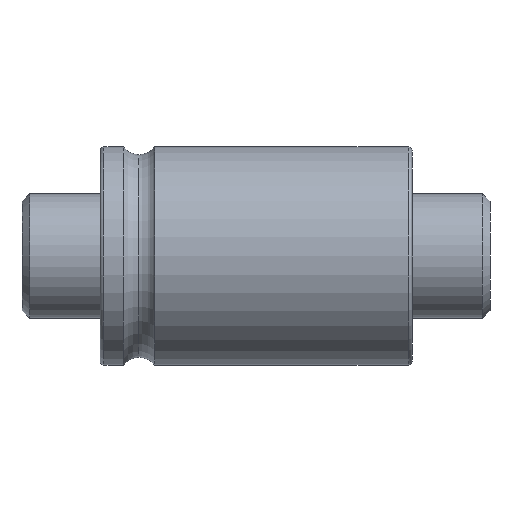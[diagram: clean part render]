
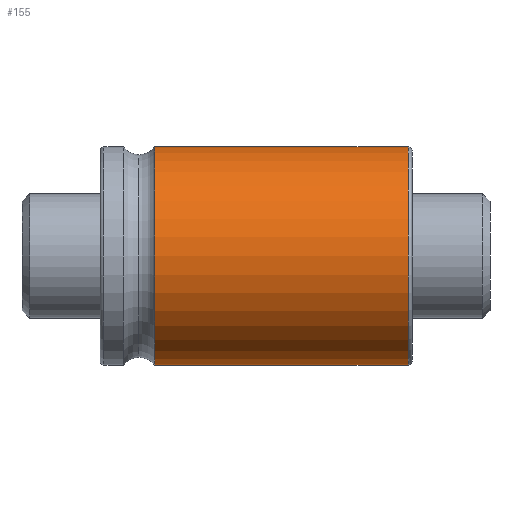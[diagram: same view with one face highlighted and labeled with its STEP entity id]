
A CAD part, front view. The second image highlights one B-rep face of the part: STEP entity #155.
In plain terms, the highlighted cylindrical face has radius 14 mm (diameter 28 mm), a partial arc.
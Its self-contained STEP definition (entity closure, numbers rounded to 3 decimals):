
#155 = ADVANCED_FACE ( 'NONE', ( #2436 ), #2850, .T. ) ;
#201 = DIRECTION ( 'NONE',  ( -1., 0., 0. ) ) ;
#292 = CARTESIAN_POINT ( 'NONE',  ( 39.5, 0., -14. ) ) ;
#332 = LINE ( 'NONE', #2679, #1179 ) ;
#333 = ORIENTED_EDGE ( 'NONE', *, *, #887, .T. ) ;
#375 = CIRCLE ( 'NONE', #797, 14. ) ;
#477 = DIRECTION ( 'NONE',  ( -1., 0., 0. ) ) ;
#564 = EDGE_LOOP ( 'NONE', ( #2351, #333, #2797, #2002 ) ) ;
#577 = VERTEX_POINT ( 'NONE', #1498 ) ;
#713 = DIRECTION ( 'NONE',  ( 0., 0., 1. ) ) ;
#797 = AXIS2_PLACEMENT_3D ( 'NONE', #2323, #2342, #857 ) ;
#857 = DIRECTION ( 'NONE',  ( 0., 0., -1. ) ) ;
#887 = EDGE_CURVE ( 'NONE', #2295, #2841, #375, .T. ) ;
#892 = EDGE_CURVE ( 'NONE', #577, #1760, #3098, .T. ) ;
#935 = CARTESIAN_POINT ( 'NONE',  ( 7., 0., 0. ) ) ;
#1000 = AXIS2_PLACEMENT_3D ( 'NONE', #935, #201, #3146 ) ;
#1179 = VECTOR ( 'NONE', #477, 1000. ) ;
#1224 = DIRECTION ( 'NONE',  ( -1., 0., 0. ) ) ;
#1282 = VECTOR ( 'NONE', #2914, 1000. ) ;
#1498 = CARTESIAN_POINT ( 'NONE',  ( 7., 0., -14. ) ) ;
#1512 = EDGE_CURVE ( 'NONE', #2841, #1760, #332, .T. ) ;
#1760 = VERTEX_POINT ( 'NONE', #2124 ) ;
#1866 = LINE ( 'NONE', #2925, #1282 ) ;
#1986 = CARTESIAN_POINT ( 'NONE',  ( 40., 0., 0. ) ) ;
#2002 = ORIENTED_EDGE ( 'NONE', *, *, #892, .F. ) ;
#2011 = AXIS2_PLACEMENT_3D ( 'NONE', #1986, #1224, #713 ) ;
#2124 = CARTESIAN_POINT ( 'NONE',  ( 7., 0., 14. ) ) ;
#2295 = VERTEX_POINT ( 'NONE', #292 ) ;
#2323 = CARTESIAN_POINT ( 'NONE',  ( 39.5, 0., 0. ) ) ;
#2342 = DIRECTION ( 'NONE',  ( -1., 0., 0. ) ) ;
#2351 = ORIENTED_EDGE ( 'NONE', *, *, #2450, .F. ) ;
#2389 = CARTESIAN_POINT ( 'NONE',  ( 39.5, 0., 14. ) ) ;
#2436 = FACE_OUTER_BOUND ( 'NONE', #564, .T. ) ;
#2450 = EDGE_CURVE ( 'NONE', #2295, #577, #1866, .T. ) ;
#2679 = CARTESIAN_POINT ( 'NONE',  ( 40., 0., 14. ) ) ;
#2797 = ORIENTED_EDGE ( 'NONE', *, *, #1512, .T. ) ;
#2841 = VERTEX_POINT ( 'NONE', #2389 ) ;
#2850 = CYLINDRICAL_SURFACE ( 'NONE', #2011, 14. ) ;
#2914 = DIRECTION ( 'NONE',  ( -1., 0., 0. ) ) ;
#2925 = CARTESIAN_POINT ( 'NONE',  ( 40., 0., -14. ) ) ;
#3098 = CIRCLE ( 'NONE', #1000, 14. ) ;
#3146 = DIRECTION ( 'NONE',  ( 0., 0., 1. ) ) ;
